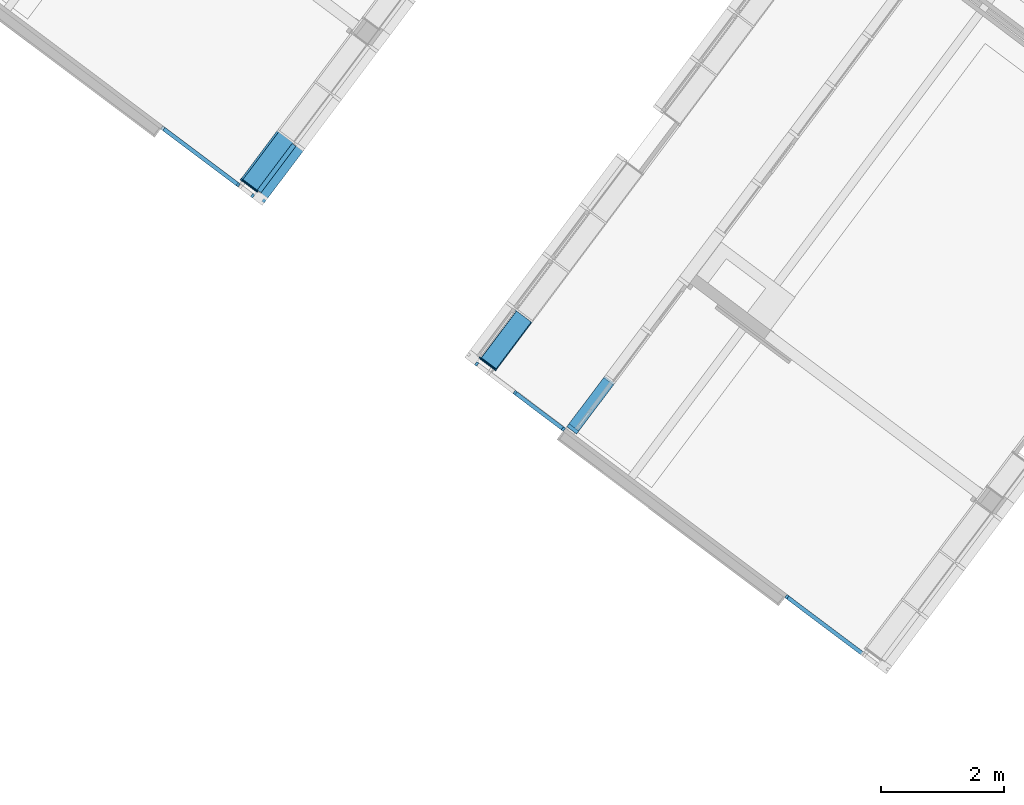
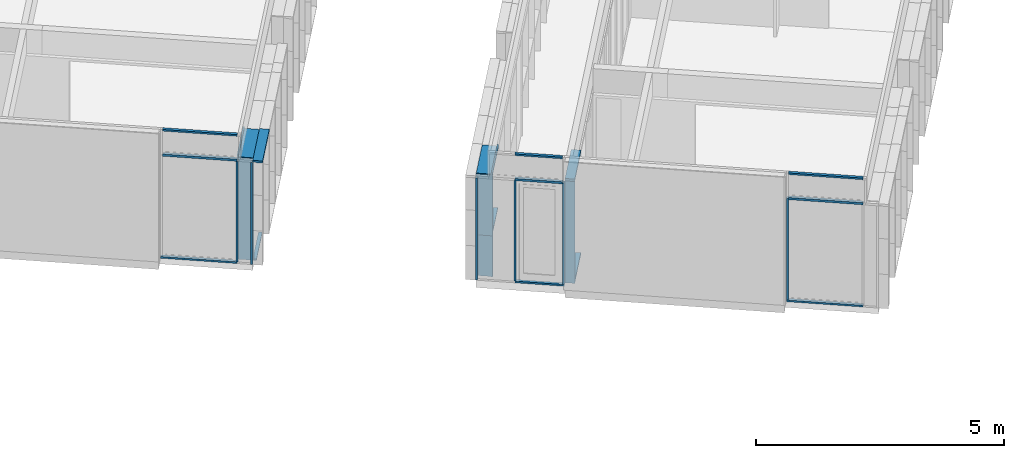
# One storey, part 33 of 243: 26 members, 7 elements without a shape of their own.
"""IFC2X3 building model written with IfcOpenShell, lengths in metres."""

from ifc_helpers import new_model, entity, si_unit, converted_unit, derived_unit, direction, frame, frame_2d, origin, origin_2d_with_axis, place, context, subcontext, project, spatial, polyline, rectangle, outline, extrude, source, transform, mapped, material, type_object, type_shapes, element, aggregate, save


model = new_model("IFC2X3")

# Units and contexts
model_context = context("Model", 3, precision=1e-05, world=origin(), true_north=direction((6.123031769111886e-17, 1.0)))
body_context = subcontext(model_context, "Body", "Model", "MODEL_VIEW")
ifc_project = project(units=[si_unit("LENGTHUNIT", "METRE"), si_unit("AREAUNIT", "SQUARE_METRE"), si_unit("VOLUMEUNIT", "CUBIC_METRE"), converted_unit("PLANEANGLEUNIT", "DEGREE", entity("IfcRatioMeasure", 0.017453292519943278), si_unit("PLANEANGLEUNIT", "RADIAN"), dimensions=[0, 0, 0, 0, 0, 0, 0]), si_unit("MASSUNIT", "GRAM", prefix="KILO"), derived_unit("MASSDENSITYUNIT", [(si_unit("MASSUNIT", "GRAM", prefix="KILO"), 1), (si_unit("LENGTHUNIT", "METRE"), -3)]), derived_unit("IONCONCENTRATIONUNIT", [(si_unit("MASSUNIT", "GRAM", prefix="KILO"), 1), (si_unit("LENGTHUNIT", "METRE"), -3)]), derived_unit("MOMENTOFINERTIAUNIT", [(si_unit("LENGTHUNIT", "METRE"), 4)]), si_unit("TIMEUNIT", "SECOND"), si_unit("FREQUENCYUNIT", "HERTZ"), si_unit("THERMODYNAMICTEMPERATUREUNIT", "DEGREE_CELSIUS"), derived_unit("THERMALTRANSMITTANCEUNIT", [(si_unit("MASSUNIT", "GRAM", prefix="KILO"), 1), (si_unit("THERMODYNAMICTEMPERATUREUNIT", "KELVIN"), -1), (si_unit("TIMEUNIT", "SECOND"), -3)]), derived_unit("THERMALCONDUCTANCEUNIT", [(si_unit("MASSUNIT", "GRAM", prefix="KILO"), 1), (si_unit("THERMODYNAMICTEMPERATUREUNIT", "KELVIN"), -1), (si_unit("TIMEUNIT", "SECOND"), -3), (si_unit("LENGTHUNIT", "METRE"), 1)]), derived_unit("VOLUMETRICFLOWRATEUNIT", [(si_unit("LENGTHUNIT", "METRE"), 3), (si_unit("TIMEUNIT", "SECOND"), -1)]), derived_unit("MASSFLOWRATEUNIT", [(si_unit("MASSUNIT", "GRAM", prefix="KILO"), 1), (si_unit("TIMEUNIT", "SECOND"), -1)]), derived_unit("ROTATIONALFREQUENCYUNIT", [(si_unit("TIMEUNIT", "SECOND"), -1)]), si_unit("ELECTRICCURRENTUNIT", "AMPERE"), si_unit("ELECTRICVOLTAGEUNIT", "VOLT"), si_unit("POWERUNIT", "WATT"), si_unit("FORCEUNIT", "NEWTON", prefix="KILO"), si_unit("ILLUMINANCEUNIT", "LUX"), si_unit("LUMINOUSFLUXUNIT", "LUMEN"), si_unit("LUMINOUSINTENSITYUNIT", "CANDELA"), derived_unit("USERDEFINED", [(si_unit("MASSUNIT", "GRAM", prefix="KILO"), -1), (si_unit("LENGTHUNIT", "METRE"), -2), (si_unit("TIMEUNIT", "SECOND"), 3), (si_unit("LUMINOUSFLUXUNIT", "LUMEN"), 1)]), derived_unit("USERDEFINED", [(si_unit("MASSUNIT", "GRAM", prefix="KILO"), 1), (si_unit("TIMEUNIT", "SECOND"), -3), (si_unit("LENGTHUNIT", "METRE"), 3), (si_unit("ELECTRICCURRENTUNIT", "AMPERE"), -2)]), derived_unit("SOUNDPOWERUNIT", [(si_unit("MASSUNIT", "GRAM", prefix="KILO"), 1), (si_unit("TIMEUNIT", "SECOND"), -3), (si_unit("LENGTHUNIT", "METRE"), 2)]), derived_unit("SOUNDPRESSUREUNIT", [(si_unit("MASSUNIT", "GRAM", prefix="KILO"), 1), (si_unit("LENGTHUNIT", "METRE"), -1), (si_unit("TIMEUNIT", "SECOND"), -2)]), derived_unit("LINEARVELOCITYUNIT", [(si_unit("LENGTHUNIT", "METRE"), 1), (si_unit("TIMEUNIT", "SECOND"), -1)]), si_unit("PRESSUREUNIT", "PASCAL"), derived_unit("USERDEFINED", [(si_unit("MASSUNIT", "GRAM", prefix="KILO"), 1), (si_unit("LENGTHUNIT", "METRE"), -2), (si_unit("TIMEUNIT", "SECOND"), -2)]), derived_unit("LINEARFORCEUNIT", [(si_unit("MASSUNIT", "GRAM", prefix="KILO"), 1), (si_unit("TIMEUNIT", "SECOND"), -2)]), derived_unit("PLANARFORCEUNIT", [(si_unit("MASSUNIT", "GRAM", prefix="KILO"), 1), (si_unit("LENGTHUNIT", "METRE"), -1), (si_unit("TIMEUNIT", "SECOND"), -2)]), derived_unit("SPECIFICHEATCAPACITYUNIT", [(si_unit("THERMODYNAMICTEMPERATUREUNIT", "KELVIN"), -1), (si_unit("LENGTHUNIT", "METRE"), 2), (si_unit("TIMEUNIT", "SECOND"), -2)]), derived_unit("HEATINGVALUEUNIT", [(si_unit("LENGTHUNIT", "METRE"), 2), (si_unit("TIMEUNIT", "SECOND"), -2)]), derived_unit("VAPORPERMEABILITYUNIT", [(si_unit("LENGTHUNIT", "METRE"), -1), (si_unit("TIMEUNIT", "SECOND"), 1)]), derived_unit("DYNAMICVISCOSITYUNIT", [(si_unit("MASSUNIT", "GRAM", prefix="KILO"), 1), (si_unit("TIMEUNIT", "SECOND"), -1), (si_unit("LENGTHUNIT", "METRE"), -1)]), derived_unit("THERMALEXPANSIONCOEFFICIENTUNIT", [(si_unit("THERMODYNAMICTEMPERATUREUNIT", "KELVIN"), -1)]), derived_unit("MODULUSOFELASTICITYUNIT", [(si_unit("MASSUNIT", "GRAM", prefix="KILO"), 1), (si_unit("LENGTHUNIT", "METRE"), -1), (si_unit("TIMEUNIT", "SECOND"), -2)]), derived_unit("ISOTHERMALMOISTURECAPACITYUNIT", [(si_unit("LENGTHUNIT", "METRE"), 3), (si_unit("MASSUNIT", "GRAM", prefix="KILO"), -1)]), derived_unit("MOISTUREDIFFUSIVITYUNIT", [(si_unit("TIMEUNIT", "SECOND"), -1), (si_unit("LENGTHUNIT", "METRE"), 2)])], contexts=[model_context])

# Site, building, storey
site_placement = place(None, frame((0.0, 0.0, 235.0), z_axis=(0.0, 0.0, 1.0), x_axis=(-0.7996477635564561, 0.6004693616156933, 0.0)))
site = spatial("IfcSite", under=ifc_project, at=site_placement, Name="Default", CompositionType="ELEMENT")
building_placement = place(site_placement, origin())
building = spatial("IfcBuilding", under=site, at=building_placement, CompositionType="ELEMENT")
storey_placement = place(building_placement, origin())
storey = spatial("IfcBuildingStorey", under=building, at=storey_placement, Name="P0- Escola", CompositionType="ELEMENT", Elevation=0.0)

# Curtain wall, members
curtain_wall_type_1 = type_object("IfcCurtainWallType", Name="Muro cortina:MC- INT- a1", PredefinedType="NOTDEFINED")
curtain_wall_1_placement = place(storey_placement, origin())
curtain_wall_1 = element("IfcCurtainWall", 1, at=curtain_wall_1_placement, inside=storey, type_object=curtain_wall_type_1, Name="Muro cortina:MC- INT- a1", ObjectType="Muro cortina:MC- INT- a1")
ifc_material_1 = material(Name="_Fusta massisa- T1")
member_type_1 = type_object("IfcMemberType", Name="Montante rectangular:MC- Fusta- 20x6 cm- Neutre", PredefinedType="MULLION", material=ifc_material_1)
shared_shape_1 = source(origin(), body_context, "Body", "SweptSolid", [
    extrude(rectangle(XDim=0.19999999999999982, YDim=0.06, at=frame_2d((5.551115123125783e-17, 0.0), x_axis=(1.0, 0.0))), frame((-0.03, -0.060000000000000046, -2.5050000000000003), z_axis=(0.0, 0.0, 1.0), x_axis=(0.0, -1.0, 0.0)), (0.0, 0.0, 1.0), 2.5050000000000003),
])
type_shapes(member_type_1, [shared_shape_1])
member_1_placement = place(curtain_wall_1_placement, frame((60.020147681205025, -20.385191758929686, 2.5050000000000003), z_axis=(0.0, 0.0, 1.0), x_axis=(0.0, 1.0, 0.0)))
member_1 = element("IfcMember", 2, at=member_1_placement, type_object=member_type_1, material=ifc_material_1, Name="Montante rectangular:MC- Fusta- 20x6 cm- Neutre", ObjectType="Montante rectangular:MC- Fusta- 20x6 cm- Neutre", context=body_context, shape_type="MappedRepresentation", body=[
    mapped(shared_shape_1, transform((0.0, 0.0, 0.0), scale=1.0)),
])
member_type_2 = type_object("IfcMemberType", Name="Montante rectangular:MC- Fusta- 20x6 cm- Esquerra", PredefinedType="MULLION", material=ifc_material_1)
shared_shape_2 = source(origin(), body_context, "Body", "SweptSolid", [
    extrude(outline(polyline([(-0.07000000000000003, -0.01875000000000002), (-0.04000000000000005, -0.01875000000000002), (-0.04000000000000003, -0.0037500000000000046), (-0.020000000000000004, -0.0037500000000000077), (-0.02, -0.018750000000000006), (0.13, -0.018749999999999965), (0.12999999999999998, 0.04125000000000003), (-0.06999999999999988, 0.04124999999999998), (-0.07000000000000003, -0.01875000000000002)])), frame((-0.041249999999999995, -0.03, -1.0299999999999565), z_axis=(0.0, 0.0, 1.0), x_axis=(0.0, -1.0, 0.0)), (0.0, 0.0, 1.0), 1.0299999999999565),
])
type_shapes(member_type_2, [shared_shape_2])
member_2_placement = place(curtain_wall_1_placement, frame((60.020147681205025, -21.415189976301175, 2.565), z_axis=(0.0, -1.0, 0.0), x_axis=(0.0, 0.0, 1.0)))
member_2 = element("IfcMember", 3, at=member_2_placement, type_object=member_type_2, material=ifc_material_1, Name="Montante rectangular:MC- Fusta- 20x6 cm- Esquerra", ObjectType="Montante rectangular:MC- Fusta- 20x6 cm- Esquerra", context=body_context, shape_type="MappedRepresentation", body=[
    mapped(shared_shape_2, transform((0.0, 0.0, 0.0), scale=1.0)),
])
member_type_3 = type_object("IfcMemberType", Name="Montante rectangular:MC- Fusta- 20x6 cm- Neutre", PredefinedType="MULLION", material=ifc_material_1)
shared_shape_3 = source(origin(), body_context, "Body", "SweptSolid", [
    extrude(rectangle(XDim=0.19999999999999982, YDim=0.06, at=frame_2d((5.551115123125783e-17, 0.0), x_axis=(1.0, 0.0))), frame((-0.03, -0.060000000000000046, -0.9399982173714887), z_axis=(0.0, 0.0, 1.0), x_axis=(0.0, -1.0, 0.0)), (0.0, 0.0, 1.0), 0.9399982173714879),
])
type_shapes(member_type_3, [shared_shape_3])
member_3_placement = place(curtain_wall_1_placement, frame((60.020147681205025, -20.445191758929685, 0.0), z_axis=(0.0, 1.0, 0.0), x_axis=(0.0, 0.0, -1.0)))
member_3 = element("IfcMember", 4, at=member_3_placement, type_object=member_type_3, material=ifc_material_1, Name="Montante rectangular:MC- Fusta- 20x6 cm- Neutre", ObjectType="Montante rectangular:MC- Fusta- 20x6 cm- Neutre", context=body_context, shape_type="MappedRepresentation", body=[
    mapped(shared_shape_3, transform((0.0, 0.0, 0.0), scale=1.0)),
])
aggregate(curtain_wall_1, [member_1, member_2, member_3])

curtain_wall_type_2 = type_object("IfcCurtainWallType", Name="Muro cortina:MC- INT- k7- Aules infantil", PredefinedType="NOTDEFINED")
curtain_wall_2_placement = place(storey_placement, origin())
curtain_wall_2 = element("IfcCurtainWall", 5, at=curtain_wall_2_placement, inside=storey, type_object=curtain_wall_type_2, Name="Muro cortina:MC- INT- k7- Aules infantil", ObjectType="Muro cortina:MC- INT- k7- Aules infantil")
member_type_4 = type_object("IfcMemberType", Name="Montante rectangular:MC- Fusta- 35x3 cm- Pati aules- Remat esquerra", PredefinedType="MULLION", material=ifc_material_1)
shared_shape_4 = source(origin(), body_context, "Body", "SweptSolid", [
    extrude(outline(polyline([(-0.22000000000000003, -0.01666666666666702), (0.12500000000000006, -0.01666666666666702), (0.125, 0.013333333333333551), (0.09500000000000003, 0.013333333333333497), (0.09500000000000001, 0.003333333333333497), (-0.22000000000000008, 0.003333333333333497), (-0.22000000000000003, -0.01666666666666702)])), frame((-0.013333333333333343, 0.03000000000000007, -2.504999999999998), z_axis=(0.0, 0.0, 1.0), x_axis=(0.0, -1.0, 0.0)), (0.0, 0.0, 1.0), 2.5049999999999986),
])
type_shapes(member_type_4, [shared_shape_4])
member_4_placement = place(curtain_wall_2_placement, frame((66.74514768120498, -20.40519175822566, 2.5049999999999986), z_axis=(0.0, 0.0, 1.0), x_axis=(0.0, 1.0, 0.0)))
member_4 = element("IfcMember", 6, at=member_4_placement, type_object=member_type_4, material=ifc_material_1, Name="Montante rectangular:MC- Fusta- 35x3 cm- Pati aules- Remat esquerra", ObjectType="Montante rectangular:MC- Fusta- 35x3 cm- Pati aules- Remat esquerra", context=body_context, shape_type="MappedRepresentation", body=[
    mapped(shared_shape_4, transform((0.0, 0.0, 0.0), scale=1.0)),
])
member_type_5 = type_object("IfcMemberType", Name="Montante rectangular:MC- Fusta- 35x3 cm- Pati aules- Remat superior", PredefinedType="MULLION", material=ifc_material_1)
shared_shape_5 = source(origin(), body_context, "Body", "SweptSolid", [
    extrude(outline(polyline([(-0.21333333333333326, -0.02666666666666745), (0.1216666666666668, -0.02666666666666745), (0.12166666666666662, 0.03333333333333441), (0.09166666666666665, 0.03333333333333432), (0.09166666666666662, -0.006666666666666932), (-0.2133333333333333, -0.006666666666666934), (-0.21333333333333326, -0.02666666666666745)])), frame((-0.033333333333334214, 0.026666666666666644, -1.0100000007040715), z_axis=(0.0, 0.0, 1.0), x_axis=(0.0, -1.0, 0.0)), (0.0, 0.0, 1.0), 1.0100000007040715),
])
type_shapes(member_type_5, [shared_shape_5])
member_5_placement = place(curtain_wall_2_placement, frame((66.74514768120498, -21.41519175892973, 2.565), z_axis=(0.0, -1.0, 0.0), x_axis=(0.0, 0.0, 1.0)))
member_5 = element("IfcMember", 7, at=member_5_placement, type_object=member_type_5, material=ifc_material_1, Name="Montante rectangular:MC- Fusta- 35x3 cm- Pati aules- Remat superior", ObjectType="Montante rectangular:MC- Fusta- 35x3 cm- Pati aules- Remat superior", context=body_context, shape_type="MappedRepresentation", body=[
    mapped(shared_shape_5, transform((0.0, 0.0, 0.0), scale=1.0)),
])
aggregate(curtain_wall_2, [member_4, member_5])

curtain_wall_type_3 = type_object("IfcCurtainWallType", Name="Muro cortina:MC- INT- k2", PredefinedType="NOTDEFINED")
curtain_wall_3_placement = place(storey_placement, origin())
curtain_wall_3 = element("IfcCurtainWall", 8, at=curtain_wall_3_placement, inside=storey, type_object=curtain_wall_type_3, Name="Muro cortina:MC- INT- k2", ObjectType="Muro cortina:MC- INT- k2")
member_type_6 = type_object("IfcMemberType", Name="Montante rectangular:MC- Fusta- 35x3 cm- Pati aules- Remat esquerra", PredefinedType="MULLION", material=ifc_material_1)
shared_shape_6 = source(origin(), body_context, "Body", "SweptSolid", [
    extrude(outline(polyline([(-0.12500000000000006, -0.01666666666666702), (0.22000000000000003, -0.01666666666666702), (0.22000000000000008, 0.003333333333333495), (-0.09499999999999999, 0.003333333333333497), (-0.09500000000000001, 0.013333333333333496), (-0.12499999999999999, 0.013333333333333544), (-0.12500000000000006, -0.01666666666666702)])), frame((-0.013333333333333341, -0.030000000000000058, -1.5049999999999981), z_axis=(0.0, 0.0, 1.0), x_axis=(0.0, -1.0, 0.0)), (0.0, 0.0, 1.0), 1.5049999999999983),
])
type_shapes(member_type_6, [shared_shape_6])
member_6_placement = place(curtain_wall_3_placement, frame((61.745147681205, -20.415191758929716, 2.5049999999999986), z_axis=(0.0, 0.0, 1.0), x_axis=(0.0, 1.0, 0.0)))
member_6 = element("IfcMember", 9, at=member_6_placement, type_object=member_type_6, material=ifc_material_1, Name="Montante rectangular:MC- Fusta- 35x3 cm- Pati aules- Remat esquerra", ObjectType="Montante rectangular:MC- Fusta- 35x3 cm- Pati aules- Remat esquerra", context=body_context, shape_type="MappedRepresentation", body=[
    mapped(shared_shape_6, transform((0.0, 0.0, 0.0), scale=1.0)),
])
member_type_7 = type_object("IfcMemberType", Name="Montante rectangular:MC- Fusta- 35x3 cm- Pati aules- Remat superior", PredefinedType="MULLION", material=ifc_material_1)
shared_shape_7 = source(origin(), body_context, "Body", "SweptSolid", [
    extrude(outline(polyline([(-0.12166666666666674, -0.02666666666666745), (0.21333333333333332, -0.02666666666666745), (0.2133333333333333, -0.006666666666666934), (-0.09166666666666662, -0.006666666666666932), (-0.09166666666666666, 0.03333333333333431), (-0.12166666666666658, 0.03333333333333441), (-0.12166666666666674, -0.02666666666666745)])), frame((-0.033333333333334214, -0.026666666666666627, -1.0), z_axis=(0.0, 0.0, 1.0), x_axis=(0.0, -1.0, 0.0)), (0.0, 0.0, 1.0), 0.9999999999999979),
])
type_shapes(member_type_7, [shared_shape_7])
member_7_placement = place(curtain_wall_3_placement, frame((61.745147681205, -21.415191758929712, 2.565), z_axis=(0.0, -1.0, 0.0), x_axis=(0.0, 0.0, 1.0)))
member_7 = element("IfcMember", 10, at=member_7_placement, type_object=member_type_7, material=ifc_material_1, Name="Montante rectangular:MC- Fusta- 35x3 cm- Pati aules- Remat superior", ObjectType="Montante rectangular:MC- Fusta- 35x3 cm- Pati aules- Remat superior", context=body_context, shape_type="MappedRepresentation", body=[
    mapped(shared_shape_7, transform((0.0, 0.0, 0.0), scale=1.0)),
])
member_type_8 = type_object("IfcMemberType", Name="Montante rectangular:MC- Fusta- 35x3 cm- Pati aules- Remat esquerra", PredefinedType="MULLION", material=ifc_material_1)
shared_shape_8 = source(origin(), body_context, "Body", "SweptSolid", [
    extrude(outline(polyline([(-0.12500000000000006, -0.01666666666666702), (0.22000000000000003, -0.01666666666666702), (0.22000000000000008, 0.003333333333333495), (-0.09499999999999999, 0.003333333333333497), (-0.09500000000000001, 0.013333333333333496), (-0.12499999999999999, 0.013333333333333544), (-0.12500000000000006, -0.01666666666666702)])), frame((-0.013333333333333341, -0.030000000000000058, -1.0), z_axis=(0.0, 0.0, 1.0), x_axis=(0.0, -1.0, 0.0)), (0.0, 0.0, 1.0), 0.9999999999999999),
])
type_shapes(member_type_8, [shared_shape_8])
member_8_placement = place(curtain_wall_3_placement, frame((61.745147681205, -20.415191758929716, 1.0), z_axis=(0.0, 0.0, 1.0), x_axis=(0.0, 1.0, 0.0)))
member_8 = element("IfcMember", 11, at=member_8_placement, type_object=member_type_8, material=ifc_material_1, Name="Montante rectangular:MC- Fusta- 35x3 cm- Pati aules- Remat esquerra", ObjectType="Montante rectangular:MC- Fusta- 35x3 cm- Pati aules- Remat esquerra", context=body_context, shape_type="MappedRepresentation", body=[
    mapped(shared_shape_8, transform((0.0, 0.0, 0.0), scale=1.0)),
])
member_type_9 = type_object("IfcMemberType", Name="Montante rectangular:MC- Fusta- 35x3 cm- Pati aules- Prestatge", PredefinedType="MULLION", material=ifc_material_1)
shared_shape_9 = source(origin(), body_context, "Body", "SweptSolid", [
    extrude(rectangle(XDim=0.30000000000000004, YDim=0.03000000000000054, at=frame_2d((0.0, -1.231653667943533e-16), x_axis=(1.0, 0.0))), frame((0.0, -0.07000000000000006, -0.9549999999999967), z_axis=(0.0, 0.0, 1.0), x_axis=(0.0, -1.0, 0.0)), (0.0, 0.0, 1.0), 0.954999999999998),
])
type_shapes(member_type_9, [shared_shape_9])
member_9_placement = place(curtain_wall_3_placement, frame((61.745147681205, -21.40019175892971, 1.0), z_axis=(0.0, -1.0, 0.0), x_axis=(0.0, 0.0, 1.0)))
member_9 = element("IfcMember", 12, at=member_9_placement, type_object=member_type_9, material=ifc_material_1, Name="Montante rectangular:MC- Fusta- 35x3 cm- Pati aules- Prestatge", ObjectType="Montante rectangular:MC- Fusta- 35x3 cm- Pati aules- Prestatge", context=body_context, shape_type="MappedRepresentation", body=[
    mapped(shared_shape_9, transform((0.0, 0.0, 0.0), scale=1.0)),
])
aggregate(curtain_wall_3, [member_6, member_7, member_8, member_9])

curtain_wall_type_4 = type_object("IfcCurtainWallType", Name="Muro cortina:MC- EXT- MC2", PredefinedType="NOTDEFINED")
curtain_wall_4_placement = place(storey_placement, origin())
curtain_wall_4 = element("IfcCurtainWall", 13, at=curtain_wall_4_placement, inside=storey, type_object=curtain_wall_type_4, Name="Muro cortina:MC- EXT- MC2", ObjectType="Muro cortina:MC- EXT- MC2")
ifc_material_2 = material(Name="_Alumini- T1- Perfil")
member_type_10 = type_object("IfcMemberType", Name="Montante rectangular:MC- Alu- 140x52,5 cm- Fa patis- inferior porta", PredefinedType="MULLION", material=ifc_material_2)
shared_shape_10 = source(origin(), body_context, "Body", "SweptSolid", [
    extrude(rectangle(XDim=0.07629999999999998, YDim=0.04, at=origin_2d_with_axis()), frame((-0.020000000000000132, -0.0381500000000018, -0.9474999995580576), z_axis=(0.0, 0.0, 1.0), x_axis=(0.0, -1.0, 0.0)), (0.0, 0.0, 1.0), 0.9474999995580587),
])
type_shapes(member_type_10, [shared_shape_10])
member_10_placement = place(curtain_wall_4_placement, frame((66.44514768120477, -20.441441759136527, -0.02), z_axis=(0.0, 1.0, 0.0), x_axis=(0.0, 0.0, -1.0)))
member_10 = element("IfcMember", 14, at=member_10_placement, type_object=member_type_10, material=ifc_material_2, Name="Montante rectangular:MC- Alu- 140x52,5 cm- Fa patis- inferior porta", ObjectType="Montante rectangular:MC- Alu- 140x52,5 cm- Fa patis- inferior porta", context=body_context, shape_type="MappedRepresentation", body=[
    mapped(shared_shape_10, transform((0.0, 0.0, 0.0), scale=1.0)),
])
member_type_11 = type_object("IfcMemberType", Name="Montante rectangular:MC- Alu- 140x52,5 cm- Fa patis- Superior", PredefinedType="MULLION", material=ifc_material_2)
shared_shape_11 = source(origin(), body_context, "Body", "SweptSolid", [
    extrude(outline(polyline([(-0.11366666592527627, -0.021249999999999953), (0.02633333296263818, -0.021249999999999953), (0.02633333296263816, -0.010000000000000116), (0.08733333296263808, -0.010000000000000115), (0.08733333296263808, 0.03125000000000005), (-0.11366666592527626, 0.031250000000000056), (-0.11366666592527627, -0.021249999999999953)])), frame((-0.031250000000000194, 0.027333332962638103, -1.1262500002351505), z_axis=(0.0, 0.0, 1.0), x_axis=(0.0, -1.0, 0.0)), (0.0, 0.0, 1.0), 1.1262500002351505),
])
type_shapes(member_type_11, [shared_shape_11])
member_11_placement = place(curtain_wall_4_placement, frame((66.44514768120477, -21.415191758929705, 2.545), z_axis=(0.0, -1.0, 0.0), x_axis=(0.0, 0.0, 1.0)))
member_11 = element("IfcMember", 15, at=member_11_placement, type_object=member_type_11, material=ifc_material_2, Name="Montante rectangular:MC- Alu- 140x52,5 cm- Fa patis- Superior", ObjectType="Montante rectangular:MC- Alu- 140x52,5 cm- Fa patis- Superior", context=body_context, shape_type="MappedRepresentation", body=[
    mapped(shared_shape_11, transform((0.0, 0.0, 0.0), scale=1.0)),
])
aggregate(curtain_wall_4, [member_10, member_11])

curtain_wall_type_5 = type_object("IfcCurtainWallType", Name="Muro cortina:MC- EXT- AL1- Fa porxo", PredefinedType="NOTDEFINED")
curtain_wall_5_placement = place(storey_placement, origin())
curtain_wall_5 = element("IfcCurtainWall", 16, at=curtain_wall_5_placement, inside=storey, type_object=curtain_wall_type_5, Name="Muro cortina:MC- EXT- AL1- Fa porxo", ObjectType="Muro cortina:MC- EXT- AL1- Fa porxo")
member_type_12 = type_object("IfcMemberType", Name="Montante rectangular:MC- Alu- 65x41 cm- Fa Porxo- Centre", PredefinedType="MULLION", material=ifc_material_2)
shared_shape_12 = source(origin(), body_context, "Body", "SweptSolid", [
    extrude(rectangle(XDim=0.06500000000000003, YDim=0.041000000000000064, at=frame_2d((0.0, -8.673617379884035e-18), x_axis=(1.0, 0.0))), frame((-0.020500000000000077, -0.032499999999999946, -0.9639999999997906), z_axis=(0.0, 0.0, 1.0), x_axis=(0.0, -1.0, 0.0)), (0.0, 0.0, 1.0), 0.963999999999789),
])
type_shapes(member_type_12, [shared_shape_12])
member_12_placement = place(curtain_wall_5_placement, frame((60.22114768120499, -20.288941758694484, 3.150000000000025), z_axis=(-1.0, 0.0, 0.0), x_axis=(0.0, 0.0, 1.0)))
member_12 = element("IfcMember", 17, at=member_12_placement, type_object=member_type_12, material=ifc_material_2, Name="Montante rectangular:MC- Alu- 65x41 cm- Fa Porxo- Centre", ObjectType="Montante rectangular:MC- Alu- 65x41 cm- Fa Porxo- Centre", context=body_context, shape_type="MappedRepresentation", body=[
    mapped(shared_shape_12, transform((0.0, 0.0, 0.0), scale=1.0)),
])
member_type_13 = type_object("IfcMemberType", Name="Montante rectangular:MC- Alu- 65x41 cm- Fa Porxo- Centre", PredefinedType="MULLION", material=ifc_material_2)
shared_shape_13 = source(origin(), body_context, "Body", "SweptSolid", [
    extrude(rectangle(XDim=0.06500000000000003, YDim=0.041000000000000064, at=frame_2d((0.0, -8.673617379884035e-18), x_axis=(1.0, 0.0))), frame((-0.020500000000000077, -0.032499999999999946, -2.4977500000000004), z_axis=(0.0, 0.0, 1.0), x_axis=(0.0, -1.0, 0.0)), (0.0, 0.0, 1.0), 2.4977500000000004),
])
type_shapes(member_type_13, [shared_shape_13])
member_13_placement = place(curtain_wall_5_placement, frame((60.180147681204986, -20.288941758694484, 0.021000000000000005), z_axis=(0.0, 0.0, -1.0), x_axis=(-1.0, 0.0, 0.0)))
member_13 = element("IfcMember", 18, at=member_13_placement, type_object=member_type_13, material=ifc_material_2, Name="Montante rectangular:MC- Alu- 65x41 cm- Fa Porxo- Centre", ObjectType="Montante rectangular:MC- Alu- 65x41 cm- Fa Porxo- Centre", context=body_context, shape_type="MappedRepresentation", body=[
    mapped(shared_shape_13, transform((0.0, 0.0, 0.0), scale=1.0)),
])
member_type_14 = type_object("IfcMemberType", Name="Montante rectangular:MC- Alu- 65x41 cm- Fa Porxo- Centre", PredefinedType="MULLION", material=ifc_material_2)
shared_shape_14 = source(origin(), body_context, "Body", "SweptSolid", [
    extrude(rectangle(XDim=0.06500000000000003, YDim=0.041000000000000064, at=frame_2d((3.469446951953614e-18, -5.204170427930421e-18), x_axis=(1.0, 0.0))), frame((-0.020499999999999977, -0.032499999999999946, -2.5122499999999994), z_axis=(0.0, 0.0, 1.0), x_axis=(0.0, -1.0, 0.0)), (0.0, 0.0, 1.0), 2.5122499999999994),
])
type_shapes(member_type_14, [shared_shape_14])
member_14_placement = place(curtain_wall_5_placement, frame((61.98514768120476, -20.288941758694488, 2.49225)))
member_14 = element("IfcMember", 19, at=member_14_placement, type_object=member_type_14, material=ifc_material_2, Name="Montante rectangular:MC- Alu- 65x41 cm- Fa Porxo- Centre", ObjectType="Montante rectangular:MC- Alu- 65x41 cm- Fa Porxo- Centre", context=body_context, shape_type="MappedRepresentation", body=[
    mapped(shared_shape_14, transform((0.0, 0.0, 0.0), scale=1.0)),
])
member_type_15 = type_object("IfcMemberType", Name="Montante rectangular:MC- Alu- 65x41 cm- Fa Porxo- Centre", PredefinedType="MULLION", material=ifc_material_2)
shared_shape_15 = source(origin(), body_context, "Body", "SweptSolid", [
    extrude(rectangle(XDim=0.06500000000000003, YDim=0.041000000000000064, at=frame_2d((3.469446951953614e-18, -5.204170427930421e-18), x_axis=(1.0, 0.0))), frame((-0.020499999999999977, -0.032499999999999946, -1.004999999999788), z_axis=(0.0, 0.0, 1.0), x_axis=(0.0, -1.0, 0.0)), (0.0, 0.0, 1.0), 1.004999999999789),
])
type_shapes(member_type_15, [shared_shape_15])
member_15_placement = place(curtain_wall_5_placement, frame((61.185147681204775, -20.288941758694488, -0.02000000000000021), z_axis=(1.0, 0.0, 0.0), x_axis=(0.0, 0.0, -1.0)))
member_15 = element("IfcMember", 20, at=member_15_placement, type_object=member_type_15, material=ifc_material_2, Name="Montante rectangular:MC- Alu- 65x41 cm- Fa Porxo- Centre", ObjectType="Montante rectangular:MC- Alu- 65x41 cm- Fa Porxo- Centre", context=body_context, shape_type="MappedRepresentation", body=[
    mapped(shared_shape_15, transform((0.0, 0.0, 0.0), scale=1.0)),
])
member_type_16 = type_object("IfcMemberType", Name="Montante rectangular:MC- Alu- 65x52,5 cm- Fa Porxo- Centre", PredefinedType="MULLION", material=ifc_material_2)
shared_shape_16 = source(origin(), body_context, "Body", "SweptSolid", [
    extrude(rectangle(XDim=0.06500000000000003, YDim=0.05300000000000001, at=frame_2d((3.469446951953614e-18, 3.469446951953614e-18), x_axis=(1.0, 0.0))), frame((0.0, -0.03249999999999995, -0.96399999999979), z_axis=(0.0, 0.0, 1.0), x_axis=(0.0, -1.0, 0.0)), (0.0, 0.0, 1.0), 0.9639999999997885),
])
type_shapes(member_type_16, [shared_shape_16])
member_16_placement = place(curtain_wall_5_placement, frame((60.22114768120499, -20.288941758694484, 2.51875), z_axis=(-1.0, 0.0, 0.0), x_axis=(0.0, 0.0, 1.0)))
member_16 = element("IfcMember", 21, at=member_16_placement, type_object=member_type_16, material=ifc_material_2, Name="Montante rectangular:MC- Alu- 65x52,5 cm- Fa Porxo- Centre", ObjectType="Montante rectangular:MC- Alu- 65x52,5 cm- Fa Porxo- Centre", context=body_context, shape_type="MappedRepresentation", body=[
    mapped(shared_shape_16, transform((0.0, 0.0, 0.0), scale=1.0)),
])
member_type_17 = type_object("IfcMemberType", Name="Montante rectangular:MC- Alu- 65x41 cm- Fa Porxo- Centre", PredefinedType="MULLION", material=ifc_material_2)
shared_shape_17 = source(origin(), body_context, "Body", "SweptSolid", [
    extrude(rectangle(XDim=0.06500000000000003, YDim=0.04100000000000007, at=frame_2d((0.0, -8.673617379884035e-18), x_axis=(1.0, 0.0))), frame((0.0, -0.032499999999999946, -2.4712500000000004), z_axis=(0.0, 0.0, 1.0), x_axis=(0.0, -1.0, 0.0)), (0.0, 0.0, 1.0), 2.4712500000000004),
])
type_shapes(member_type_17, [shared_shape_17])
member_17_placement = place(curtain_wall_5_placement, frame((61.185147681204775, -20.288941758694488, 0.020999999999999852), z_axis=(0.0, 0.0, -1.0), x_axis=(-1.0, 0.0, 0.0)))
member_17 = element("IfcMember", 22, at=member_17_placement, type_object=member_type_17, material=ifc_material_2, Name="Montante rectangular:MC- Alu- 65x41 cm- Fa Porxo- Centre", ObjectType="Montante rectangular:MC- Alu- 65x41 cm- Fa Porxo- Centre", context=body_context, shape_type="MappedRepresentation", body=[
    mapped(shared_shape_17, transform((0.0, 0.0, 0.0), scale=1.0)),
])
aggregate(curtain_wall_5, [member_12, member_13, member_14, member_15, member_16, member_17])

# Curtain wall, member
curtain_wall_6_placement = place(storey_placement, origin())
curtain_wall_6 = element("IfcCurtainWall", 23, at=curtain_wall_6_placement, inside=storey, type_object=curtain_wall_type_5, Name="Muro cortina:MC- EXT- AL1- Fa porxo", ObjectType="Muro cortina:MC- EXT- AL1- Fa porxo")
member_type_18 = type_object("IfcMemberType", Name="Montante rectangular:MC- Alu- 65x41 cm- Fa Porxo- Centre", PredefinedType="MULLION", material=ifc_material_2)
shared_shape_18 = source(origin(), body_context, "Body", "SweptSolid", [
    extrude(rectangle(XDim=0.06500000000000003, YDim=0.041000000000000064, at=origin_2d_with_axis()), frame((-0.02050000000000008, 0.03249999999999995, -1.5144959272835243), z_axis=(0.0, 0.0, 1.0), x_axis=(0.0, -1.0, 0.0)), (0.0, 0.0, 1.0), 1.5144959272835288),
])
type_shapes(member_type_18, [shared_shape_18])
member_18_placement = place(curtain_wall_6_placement, frame((55.6341436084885, -20.288941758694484, 3.150000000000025), z_axis=(1.0, 0.0, 0.0), x_axis=(0.0, 0.0, 1.0)))
member_18 = element("IfcMember", 24, at=member_18_placement, type_object=member_type_18, material=ifc_material_2, Name="Montante rectangular:MC- Alu- 65x41 cm- Fa Porxo- Centre", ObjectType="Montante rectangular:MC- Alu- 65x41 cm- Fa Porxo- Centre", context=body_context, shape_type="MappedRepresentation", body=[
    mapped(shared_shape_18, transform((0.0, 0.0, 0.0), scale=1.0)),
])

curtain_wall_7_placement = place(storey_placement, origin())
curtain_wall_7 = element("IfcCurtainWall", 25, at=curtain_wall_7_placement, inside=storey, type_object=curtain_wall_type_5, Name="Muro cortina:MC- EXT- AL1- Fa porxo", ObjectType="Muro cortina:MC- EXT- AL1- Fa porxo")
member_19_placement = place(curtain_wall_7_placement, frame((68.3341436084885, -20.288941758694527, 3.150000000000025), z_axis=(1.0, 0.0, 0.0), x_axis=(0.0, 0.0, 1.0)))
member_19 = element("IfcMember", 26, at=member_19_placement, type_object=member_type_18, material=ifc_material_2, Name="Montante rectangular:MC- Alu- 65x41 cm- Fa Porxo- Centre", ObjectType="Montante rectangular:MC- Alu- 65x41 cm- Fa Porxo- Centre", context=body_context, shape_type="MappedRepresentation", body=[
    mapped(shared_shape_18, transform((0.0, 0.0, 0.0), scale=1.0)),
])

# Member
member_type_19 = type_object("IfcMemberType", Name="Montante rectangular:MC- Alu- 65x41 cm- Fa Porxo- Centre", PredefinedType="MULLION", material=ifc_material_2)
shared_shape_19 = source(origin(), body_context, "Body", "SweptSolid", [
    extrude(rectangle(XDim=0.06500000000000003, YDim=0.041000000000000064, at=origin_2d_with_axis()), frame((-0.02050000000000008, 0.032499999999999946, -2.4977500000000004), z_axis=(0.0, 0.0, 1.0), x_axis=(0.0, -1.0, 0.0)), (0.0, 0.0, 1.0), 2.4977500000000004),
])
type_shapes(member_type_19, [shared_shape_19])
member_20_placement = place(curtain_wall_6_placement, frame((55.6751436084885, -20.288941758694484, 0.021000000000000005), z_axis=(0.0, 0.0, -1.0), x_axis=(1.0, 0.0, 0.0)))
member_20 = element("IfcMember", 27, at=member_20_placement, type_object=member_type_19, material=ifc_material_2, Name="Montante rectangular:MC- Alu- 65x41 cm- Fa Porxo- Centre", ObjectType="Montante rectangular:MC- Alu- 65x41 cm- Fa Porxo- Centre", context=body_context, shape_type="MappedRepresentation", body=[
    mapped(shared_shape_19, transform((0.0, 0.0, 0.0), scale=1.0)),
])

member_type_20 = type_object("IfcMemberType", Name="Montante rectangular:MC- Alu- 65x41 cm- Fa Porxo- Centre", PredefinedType="MULLION", material=ifc_material_2)
shared_shape_20 = source(origin(), body_context, "Body", "SweptSolid", [
    extrude(rectangle(XDim=0.06500000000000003, YDim=0.041000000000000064, at=frame_2d((0.0, 3.469446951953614e-18), x_axis=(1.0, 0.0))), frame((-0.02049999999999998, 0.03249999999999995, -2.5122499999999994), z_axis=(0.0, 0.0, 1.0), x_axis=(0.0, -1.0, 0.0)), (0.0, 0.0, 1.0), 2.5122499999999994),
])
type_shapes(member_type_20, [shared_shape_20])
member_21_placement = place(curtain_wall_7_placement, frame((66.50514768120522, -20.28894175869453, 2.49225), z_axis=(0.0, 0.0, 1.0), x_axis=(-1.0, 0.0, 0.0)))
member_21 = element("IfcMember", 28, at=member_21_placement, type_object=member_type_20, material=ifc_material_2, Name="Montante rectangular:MC- Alu- 65x41 cm- Fa Porxo- Centre", ObjectType="Montante rectangular:MC- Alu- 65x41 cm- Fa Porxo- Centre", context=body_context, shape_type="MappedRepresentation", body=[
    mapped(shared_shape_20, transform((0.0, 0.0, 0.0), scale=1.0)),
])

member_type_21 = type_object("IfcMemberType", Name="Montante rectangular:MC- Alu- 65x41 cm- Fa Porxo- Centre", PredefinedType="MULLION", material=ifc_material_2)
shared_shape_21 = source(origin(), body_context, "Body", "SweptSolid", [
    extrude(rectangle(XDim=0.06500000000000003, YDim=0.041000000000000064, at=frame_2d((0.0, 3.469446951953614e-18), x_axis=(1.0, 0.0))), frame((-0.02049999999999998, 0.032499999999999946, -1.5554959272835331), z_axis=(0.0, 0.0, 1.0), x_axis=(0.0, -1.0, 0.0)), (0.0, 0.0, 1.0), 1.5554959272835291),
])
type_shapes(member_type_21, [shared_shape_21])
member_22_placement = place(curtain_wall_6_placement, frame((54.119647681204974, -20.288941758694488, -0.02000000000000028), z_axis=(-1.0, 0.0, 0.0), x_axis=(0.0, 0.0, -1.0)))
member_22 = element("IfcMember", 29, at=member_22_placement, type_object=member_type_21, material=ifc_material_2, Name="Montante rectangular:MC- Alu- 65x41 cm- Fa Porxo- Centre", ObjectType="Montante rectangular:MC- Alu- 65x41 cm- Fa Porxo- Centre", context=body_context, shape_type="MappedRepresentation", body=[
    mapped(shared_shape_21, transform((0.0, 0.0, 0.0), scale=1.0)),
])

member_23_placement = place(curtain_wall_7_placement, frame((66.81964768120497, -20.28894175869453, -0.02000000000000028), z_axis=(-1.0, 0.0, 0.0), x_axis=(0.0, 0.0, -1.0)))
member_23 = element("IfcMember", 30, at=member_23_placement, type_object=member_type_21, material=ifc_material_2, Name="Montante rectangular:MC- Alu- 65x41 cm- Fa Porxo- Centre", ObjectType="Montante rectangular:MC- Alu- 65x41 cm- Fa Porxo- Centre", context=body_context, shape_type="MappedRepresentation", body=[
    mapped(shared_shape_21, transform((0.0, 0.0, 0.0), scale=1.0)),
])

member_type_22 = type_object("IfcMemberType", Name="Montante rectangular:MC- Alu- 65x52,5 cm- Fa Porxo- Centre", PredefinedType="MULLION", material=ifc_material_2)
shared_shape_22 = source(origin(), body_context, "Body", "SweptSolid", [
    extrude(rectangle(XDim=0.06500000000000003, YDim=0.053000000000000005, at=frame_2d((3.469446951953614e-18, 5.204170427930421e-18), x_axis=(1.0, 0.0))), frame((0.0, 0.03249999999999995, -1.5144959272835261), z_axis=(0.0, 0.0, 1.0), x_axis=(0.0, -1.0, 0.0)), (0.0, 0.0, 1.0), 1.5144959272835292),
])
type_shapes(member_type_22, [shared_shape_22])
member_24_placement = place(curtain_wall_6_placement, frame((55.6341436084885, -20.288941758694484, 2.51875), z_axis=(1.0, 0.0, 0.0), x_axis=(0.0, 0.0, 1.0)))
member_24 = element("IfcMember", 31, at=member_24_placement, type_object=member_type_22, material=ifc_material_2, Name="Montante rectangular:MC- Alu- 65x52,5 cm- Fa Porxo- Centre", ObjectType="Montante rectangular:MC- Alu- 65x52,5 cm- Fa Porxo- Centre", context=body_context, shape_type="MappedRepresentation", body=[
    mapped(shared_shape_22, transform((0.0, 0.0, 0.0), scale=1.0)),
])

aggregate(curtain_wall_6, [member_18, member_20, member_22, member_24])

member_25_placement = place(curtain_wall_7_placement, frame((68.3341436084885, -20.288941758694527, 2.51875), z_axis=(1.0, 0.0, 0.0), x_axis=(0.0, 0.0, 1.0)))
member_25 = element("IfcMember", 32, at=member_25_placement, type_object=member_type_22, material=ifc_material_2, Name="Montante rectangular:MC- Alu- 65x52,5 cm- Fa Porxo- Centre", ObjectType="Montante rectangular:MC- Alu- 65x52,5 cm- Fa Porxo- Centre", context=body_context, shape_type="MappedRepresentation", body=[
    mapped(shared_shape_22, transform((0.0, 0.0, 0.0), scale=1.0)),
])

member_type_23 = type_object("IfcMemberType", Name="Montante rectangular:MC- Alu- 65x41 cm- Fa Porxo- Centre", PredefinedType="MULLION", material=ifc_material_2)
shared_shape_23 = source(origin(), body_context, "Body", "SweptSolid", [
    extrude(rectangle(XDim=0.06500000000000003, YDim=0.04100000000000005, at=frame_2d((3.469446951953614e-18, 6.938893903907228e-18), x_axis=(1.0, 0.0))), frame((0.0, 0.03249999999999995, -2.4712500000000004), z_axis=(0.0, 0.0, 1.0), x_axis=(0.0, -1.0, 0.0)), (0.0, 0.0, 1.0), 2.4712500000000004),
])
type_shapes(member_type_23, [shared_shape_23])
member_26_placement = place(curtain_wall_7_placement, frame((66.81964768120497, -20.28894175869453, 0.020999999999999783), z_axis=(0.0, 0.0, -1.0), x_axis=(1.0, 0.0, 0.0)))
member_26 = element("IfcMember", 33, at=member_26_placement, type_object=member_type_23, material=ifc_material_2, Name="Montante rectangular:MC- Alu- 65x41 cm- Fa Porxo- Centre", ObjectType="Montante rectangular:MC- Alu- 65x41 cm- Fa Porxo- Centre", context=body_context, shape_type="MappedRepresentation", body=[
    mapped(shared_shape_23, transform((0.0, 0.0, 0.0), scale=1.0)),
])

aggregate(curtain_wall_7, [member_19, member_21, member_23, member_25, member_26])

save(model, "model.ifc")
